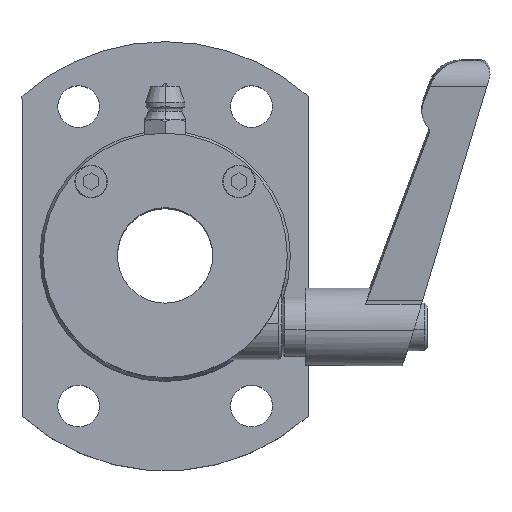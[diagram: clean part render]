
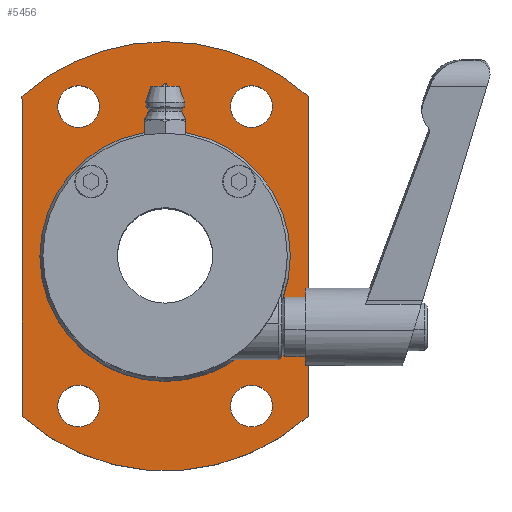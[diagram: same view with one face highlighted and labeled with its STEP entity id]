
A CAD part, top view. The second image highlights one B-rep face of the part: STEP entity #5456.
In plain terms, the highlighted planar face has unit normal (0, 0, 1).
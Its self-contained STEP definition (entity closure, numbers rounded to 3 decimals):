
#7 = CARTESIAN_POINT ( 'NONE',  ( 10.176, -27.461, 62. ) ) ;
#86 = DIRECTION ( 'NONE',  ( 0., 1., 0. ) ) ;
#126 = VECTOR ( 'NONE', #6225, 1000. ) ;
#180 = DIRECTION ( 'NONE',  ( 0., 0., -1. ) ) ;
#228 = CARTESIAN_POINT ( 'NONE',  ( -22.324, -27.461, 62. ) ) ;
#231 = VERTEX_POINT ( 'NONE', #8176 ) ;
#369 = DIRECTION ( 'NONE',  ( 0., 0., -1. ) ) ;
#528 = AXIS2_PLACEMENT_3D ( 'NONE', #7195, #4497, #745 ) ;
#562 = CARTESIAN_POINT ( 'NONE',  ( -18.824, 22.769, 62. ) ) ;
#633 = ORIENTED_EDGE ( 'NONE', *, *, #10881, .T. ) ;
#646 = CIRCLE ( 'NONE', #5288, 3.5 ) ;
#745 = DIRECTION ( 'NONE',  ( 0., 1., 0. ) ) ;
#782 = CARTESIAN_POINT ( 'NONE',  ( -15.324, -27.461, 62. ) ) ;
#910 = CARTESIAN_POINT ( 'NONE',  ( -18.824, -27.461, 62. ) ) ;
#958 = FACE_OUTER_BOUND ( 'NONE', #6687, .T. ) ;
#1002 = CARTESIAN_POINT ( 'NONE',  ( 19.676, -29.179, 62. ) ) ;
#1040 = EDGE_LOOP ( 'NONE', ( #8025, #6279 ) ) ;
#1196 = LINE ( 'NONE', #8383, #5486 ) ;
#1359 = VERTEX_POINT ( 'NONE', #8912 ) ;
#1363 = EDGE_CURVE ( 'NONE', #6920, #8699, #4961, .T. ) ;
#1610 = CARTESIAN_POINT ( 'NONE',  ( 13.676, -27.461, 62. ) ) ;
#1619 = EDGE_CURVE ( 'NONE', #4393, #9640, #5988, .T. ) ;
#1825 = PLANE ( 'NONE',  #5086 ) ;
#1915 = FACE_BOUND ( 'NONE', #4106, .T. ) ;
#1935 = CARTESIAN_POINT ( 'NONE',  ( 10.176, 22.769, 62. ) ) ;
#1956 = AXIS2_PLACEMENT_3D ( 'NONE', #10724, #8819, #86 ) ;
#2505 = CARTESIAN_POINT ( 'NONE',  ( -15.324, 22.769, 62. ) ) ;
#2508 = VERTEX_POINT ( 'NONE', #228 ) ;
#2546 = VERTEX_POINT ( 'NONE', #3968 ) ;
#2558 = AXIS2_PLACEMENT_3D ( 'NONE', #5468, #369, #9210 ) ;
#2560 = CARTESIAN_POINT ( 'NONE',  ( 13.676, 22.769, 62. ) ) ;
#2594 = CARTESIAN_POINT ( 'NONE',  ( -18.824, 22.769, 62. ) ) ;
#2695 = LINE ( 'NONE', #10672, #126 ) ;
#2815 = VERTEX_POINT ( 'NONE', #2505 ) ;
#2819 = ORIENTED_EDGE ( 'NONE', *, *, #5898, .F. ) ;
#2900 = CIRCLE ( 'NONE', #9527, 36. ) ;
#2918 = VERTEX_POINT ( 'NONE', #2560 ) ;
#3129 = ORIENTED_EDGE ( 'NONE', *, *, #4831, .T. ) ;
#3212 = AXIS2_PLACEMENT_3D ( 'NONE', #6339, #9862, #7161 ) ;
#3283 = ORIENTED_EDGE ( 'NONE', *, *, #8894, .T. ) ;
#3349 = CARTESIAN_POINT ( 'NONE',  ( 10.176, 22.769, 62. ) ) ;
#3366 = CARTESIAN_POINT ( 'NONE',  ( -4.324, -2.346, 62. ) ) ;
#3473 = DIRECTION ( 'NONE',  ( 1., 0., 0. ) ) ;
#3572 = ORIENTED_EDGE ( 'NONE', *, *, #1363, .T. ) ;
#3630 = CARTESIAN_POINT ( 'NONE',  ( -4.324, -2.346, 62. ) ) ;
#3920 = DIRECTION ( 'NONE',  ( 0., 1., 0. ) ) ;
#3968 = CARTESIAN_POINT ( 'NONE',  ( 19.676, 24.487, 62. ) ) ;
#4041 = ORIENTED_EDGE ( 'NONE', *, *, #9385, .T. ) ;
#4090 = DIRECTION ( 'NONE',  ( 0., 0., -1. ) ) ;
#4106 = EDGE_LOOP ( 'NONE', ( #3572, #6770 ) ) ;
#4138 = DIRECTION ( 'NONE',  ( 1., 0., 0. ) ) ;
#4169 = CIRCLE ( 'NONE', #8600, 21. ) ;
#4178 = AXIS2_PLACEMENT_3D ( 'NONE', #910, #4554, #4428 ) ;
#4393 = VERTEX_POINT ( 'NONE', #1002 ) ;
#4428 = DIRECTION ( 'NONE',  ( 1., 0., 0. ) ) ;
#4442 = DIRECTION ( 'NONE',  ( 1., 0., 0. ) ) ;
#4483 = FACE_BOUND ( 'NONE', #1040, .T. ) ;
#4497 = DIRECTION ( 'NONE',  ( 0., 0., -1. ) ) ;
#4519 = ORIENTED_EDGE ( 'NONE', *, *, #1619, .F. ) ;
#4554 = DIRECTION ( 'NONE',  ( 0., 0., -1. ) ) ;
#4603 = EDGE_CURVE ( 'NONE', #2508, #10350, #6401, .T. ) ;
#4771 = EDGE_CURVE ( 'NONE', #8464, #1359, #646, .T. ) ;
#4831 = EDGE_CURVE ( 'NONE', #10350, #2508, #6408, .T. ) ;
#4961 = CIRCLE ( 'NONE', #528, 21. ) ;
#4984 = EDGE_CURVE ( 'NONE', #4393, #2546, #1196, .T. ) ;
#5030 = DIRECTION ( 'NONE',  ( 0., 0., -1. ) ) ;
#5086 = AXIS2_PLACEMENT_3D ( 'NONE', #5345, #8920, #4442 ) ;
#5240 = DIRECTION ( 'NONE',  ( 1., 0., 0. ) ) ;
#5288 = AXIS2_PLACEMENT_3D ( 'NONE', #7, #5030, #6871 ) ;
#5345 = CARTESIAN_POINT ( 'NONE',  ( -4.324, 26.154, 62. ) ) ;
#5453 = EDGE_CURVE ( 'NONE', #8699, #6920, #4169, .T. ) ;
#5456 = ADVANCED_FACE ( 'NONE', ( #958, #4483, #8046, #7179, #9822, #1915 ), #1825, .T. ) ;
#5468 = CARTESIAN_POINT ( 'NONE',  ( 10.176, -27.461, 62. ) ) ;
#5486 = VECTOR ( 'NONE', #3920, 1000. ) ;
#5832 = CIRCLE ( 'NONE', #1956, 36. ) ;
#5898 = EDGE_CURVE ( 'NONE', #9107, #10394, #5832, .T. ) ;
#5945 = ORIENTED_EDGE ( 'NONE', *, *, #8843, .F. ) ;
#5988 = CIRCLE ( 'NONE', #3212, 36. ) ;
#6022 = EDGE_LOOP ( 'NONE', ( #11074, #4041 ) ) ;
#6225 = DIRECTION ( 'NONE',  ( 0., -1., 0. ) ) ;
#6250 = AXIS2_PLACEMENT_3D ( 'NONE', #1935, #10922, #5240 ) ;
#6279 = ORIENTED_EDGE ( 'NONE', *, *, #9784, .T. ) ;
#6339 = CARTESIAN_POINT ( 'NONE',  ( -4.324, -2.346, 62. ) ) ;
#6401 = CIRCLE ( 'NONE', #10998, 3.5 ) ;
#6408 = CIRCLE ( 'NONE', #4178, 3.5 ) ;
#6417 = CIRCLE ( 'NONE', #9175, 3.5 ) ;
#6687 = EDGE_LOOP ( 'NONE', ( #10155, #5945, #2819, #3283, #4519 ) ) ;
#6770 = ORIENTED_EDGE ( 'NONE', *, *, #5453, .T. ) ;
#6871 = DIRECTION ( 'NONE',  ( 1., 0., 0. ) ) ;
#6898 = DIRECTION ( 'NONE',  ( 0., 1., 0. ) ) ;
#6920 = VERTEX_POINT ( 'NONE', #10527 ) ;
#7148 = DIRECTION ( 'NONE',  ( 0., 0., -1. ) ) ;
#7161 = DIRECTION ( 'NONE',  ( 0., 1., 0. ) ) ;
#7171 = CIRCLE ( 'NONE', #2558, 3.5 ) ;
#7179 = FACE_BOUND ( 'NONE', #9603, .T. ) ;
#7195 = CARTESIAN_POINT ( 'NONE',  ( -4.324, -2.346, 62. ) ) ;
#7422 = EDGE_CURVE ( 'NONE', #2815, #8082, #9659, .T. ) ;
#7525 = CIRCLE ( 'NONE', #6250, 3.5 ) ;
#7603 = CARTESIAN_POINT ( 'NONE',  ( -18.824, -27.461, 62. ) ) ;
#7896 = DIRECTION ( 'NONE',  ( 0., 0., -1. ) ) ;
#8025 = ORIENTED_EDGE ( 'NONE', *, *, #4771, .T. ) ;
#8046 = FACE_BOUND ( 'NONE', #6022, .T. ) ;
#8082 = VERTEX_POINT ( 'NONE', #9135 ) ;
#8176 = CARTESIAN_POINT ( 'NONE',  ( 6.676, 22.769, 62. ) ) ;
#8383 = CARTESIAN_POINT ( 'NONE',  ( 19.676, -29.179, 62. ) ) ;
#8464 = VERTEX_POINT ( 'NONE', #1610 ) ;
#8600 = AXIS2_PLACEMENT_3D ( 'NONE', #3630, #180, #8900 ) ;
#8699 = VERTEX_POINT ( 'NONE', #11070 ) ;
#8723 = ORIENTED_EDGE ( 'NONE', *, *, #4603, .T. ) ;
#8802 = CARTESIAN_POINT ( 'NONE',  ( -28.324, 24.487, 62. ) ) ;
#8819 = DIRECTION ( 'NONE',  ( 0., 0., -1. ) ) ;
#8843 = EDGE_CURVE ( 'NONE', #10394, #2546, #2900, .T. ) ;
#8894 = EDGE_CURVE ( 'NONE', #9107, #9640, #2695, .T. ) ;
#8900 = DIRECTION ( 'NONE',  ( 0., 1., 0. ) ) ;
#8912 = CARTESIAN_POINT ( 'NONE',  ( 6.676, -27.461, 62. ) ) ;
#8920 = DIRECTION ( 'NONE',  ( 0., 0., 1. ) ) ;
#9107 = VERTEX_POINT ( 'NONE', #8802 ) ;
#9135 = CARTESIAN_POINT ( 'NONE',  ( -22.324, 22.769, 62. ) ) ;
#9175 = AXIS2_PLACEMENT_3D ( 'NONE', #3349, #7896, #3473 ) ;
#9210 = DIRECTION ( 'NONE',  ( 1., 0., 0. ) ) ;
#9385 = EDGE_CURVE ( 'NONE', #8082, #2815, #11223, .T. ) ;
#9466 = CARTESIAN_POINT ( 'NONE',  ( -4.324, 33.654, 62. ) ) ;
#9521 = ORIENTED_EDGE ( 'NONE', *, *, #11125, .T. ) ;
#9527 = AXIS2_PLACEMENT_3D ( 'NONE', #3366, #7148, #6898 ) ;
#9603 = EDGE_LOOP ( 'NONE', ( #9521, #633 ) ) ;
#9640 = VERTEX_POINT ( 'NONE', #11072 ) ;
#9659 = CIRCLE ( 'NONE', #10940, 3.5 ) ;
#9784 = EDGE_CURVE ( 'NONE', #1359, #8464, #7171, .T. ) ;
#9822 = FACE_BOUND ( 'NONE', #10464, .T. ) ;
#9862 = DIRECTION ( 'NONE',  ( 0., 0., -1. ) ) ;
#10132 = DIRECTION ( 'NONE',  ( 1., 0., 0. ) ) ;
#10155 = ORIENTED_EDGE ( 'NONE', *, *, #4984, .T. ) ;
#10350 = VERTEX_POINT ( 'NONE', #782 ) ;
#10394 = VERTEX_POINT ( 'NONE', #9466 ) ;
#10464 = EDGE_LOOP ( 'NONE', ( #3129, #8723 ) ) ;
#10496 = DIRECTION ( 'NONE',  ( 1., 0., 0. ) ) ;
#10527 = CARTESIAN_POINT ( 'NONE',  ( -4.324, 18.654, 62. ) ) ;
#10672 = CARTESIAN_POINT ( 'NONE',  ( -28.324, 24.487, 62. ) ) ;
#10724 = CARTESIAN_POINT ( 'NONE',  ( -4.324, -2.346, 62. ) ) ;
#10881 = EDGE_CURVE ( 'NONE', #231, #2918, #7525, .T. ) ;
#10918 = DIRECTION ( 'NONE',  ( 0., 0., -1. ) ) ;
#10922 = DIRECTION ( 'NONE',  ( 0., 0., -1. ) ) ;
#10940 = AXIS2_PLACEMENT_3D ( 'NONE', #2594, #11417, #10496 ) ;
#10998 = AXIS2_PLACEMENT_3D ( 'NONE', #7603, #10918, #10132 ) ;
#11070 = CARTESIAN_POINT ( 'NONE',  ( -4.324, -23.346, 62. ) ) ;
#11072 = CARTESIAN_POINT ( 'NONE',  ( -28.324, -29.179, 62. ) ) ;
#11074 = ORIENTED_EDGE ( 'NONE', *, *, #7422, .T. ) ;
#11125 = EDGE_CURVE ( 'NONE', #2918, #231, #6417, .T. ) ;
#11223 = CIRCLE ( 'NONE', #11397, 3.5 ) ;
#11397 = AXIS2_PLACEMENT_3D ( 'NONE', #562, #4090, #4138 ) ;
#11417 = DIRECTION ( 'NONE',  ( 0., 0., -1. ) ) ;
